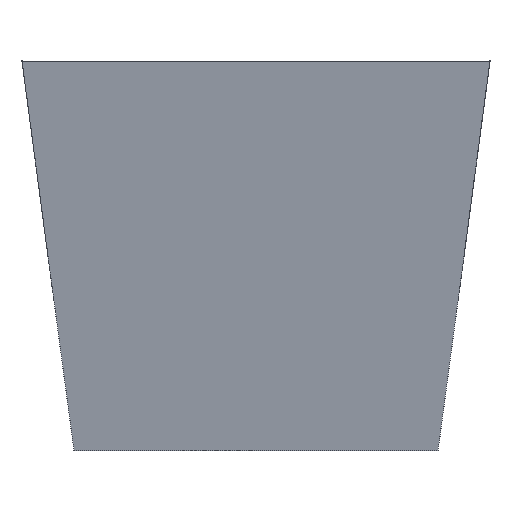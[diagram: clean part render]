
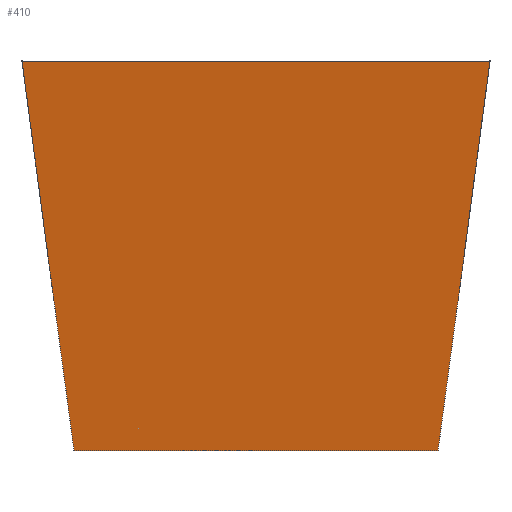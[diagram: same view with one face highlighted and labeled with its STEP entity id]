
A CAD part, left-side view. The second image highlights one B-rep face of the part: STEP entity #410.
In plain terms, the highlighted free-form (B-spline) face has degree [1, 1] with [2, 2] control points.
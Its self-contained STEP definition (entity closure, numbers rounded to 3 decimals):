
#22 = VERTEX_POINT('',#23);
#23 = CARTESIAN_POINT('',(-31.,-21.,0.));
#32 = B_SPLINE_SURFACE_WITH_KNOTS('',1,1,(
    (#33,#34)
    ,(#35,#36)),.UNSPECIFIED.,.F.,.F.,.F.,(2,2),(2,2),(0.,76.),(0.,1.),
  .PIECEWISE_BEZIER_KNOTS.);
#33 = CARTESIAN_POINT('',(-31.,-21.,0.));
#34 = CARTESIAN_POINT('',(-38.,-27.,45.));
#35 = CARTESIAN_POINT('',(31.,-21.,0.));
#36 = CARTESIAN_POINT('',(38.,-27.,45.));
#43 = PLANE('',#44);
#44 = AXIS2_PLACEMENT_3D('',#45,#46,#47);
#45 = CARTESIAN_POINT('',(-31.,-21.,0.));
#46 = DIRECTION('',(0.,0.,-1.));
#47 = DIRECTION('',(0.828,0.561,0.));
#83 = VERTEX_POINT('',#84);
#84 = CARTESIAN_POINT('',(-38.,-27.,45.));
#98 = PLANE('',#99);
#99 = AXIS2_PLACEMENT_3D('',#100,#101,#102);
#100 = CARTESIAN_POINT('',(-38.,-27.,45.));
#101 = DIRECTION('',(0.,0.,-1.));
#102 = DIRECTION('',(0.815,0.579,0.));
#110 = EDGE_CURVE('',#22,#83,#111,.T.);
#111 = SURFACE_CURVE('',#112,(#115,#122),.PCURVE_S1.);
#112 = B_SPLINE_CURVE_WITH_KNOTS('',1,(#113,#114),.UNSPECIFIED.,.F.,.F.,
  (2,2),(0.,1.),.PIECEWISE_BEZIER_KNOTS.);
#113 = CARTESIAN_POINT('',(-31.,-21.,0.));
#114 = CARTESIAN_POINT('',(-38.,-27.,45.));
#115 = PCURVE('',#32,#116);
#116 = DEFINITIONAL_REPRESENTATION('',(#117),#121);
#117 = LINE('',#118,#119);
#118 = CARTESIAN_POINT('',(0.,0.));
#119 = VECTOR('',#120,1.);
#120 = DIRECTION('',(0.,1.));
#121 = ( GEOMETRIC_REPRESENTATION_CONTEXT(2) 
PARAMETRIC_REPRESENTATION_CONTEXT() REPRESENTATION_CONTEXT('2D SPACE',''
  ) );
#122 = PCURVE('',#123,#128);
#123 = B_SPLINE_SURFACE_WITH_KNOTS('',1,1,(
    (#124,#125)
    ,(#126,#127
  )),.UNSPECIFIED.,.F.,.F.,.F.,(2,2),(2,2),(0.,54.),(0.,1.),
  .PIECEWISE_BEZIER_KNOTS.);
#124 = CARTESIAN_POINT('',(-31.,21.,0.));
#125 = CARTESIAN_POINT('',(-38.,27.,45.));
#126 = CARTESIAN_POINT('',(-31.,-21.,0.));
#127 = CARTESIAN_POINT('',(-38.,-27.,45.));
#128 = DEFINITIONAL_REPRESENTATION('',(#129),#133);
#129 = LINE('',#130,#131);
#130 = CARTESIAN_POINT('',(54.,0.));
#131 = VECTOR('',#132,1.);
#132 = DIRECTION('',(0.,1.));
#133 = ( GEOMETRIC_REPRESENTATION_CONTEXT(2) 
PARAMETRIC_REPRESENTATION_CONTEXT() REPRESENTATION_CONTEXT('2D SPACE',''
  ) );
#162 = VERTEX_POINT('',#163);
#163 = CARTESIAN_POINT('',(-31.,21.,0.));
#177 = B_SPLINE_SURFACE_WITH_KNOTS('',1,1,(
    (#178,#179)
    ,(#180,#181
  )),.UNSPECIFIED.,.F.,.F.,.F.,(2,2),(2,2),(0.,76.),(0.,1.),
  .PIECEWISE_BEZIER_KNOTS.);
#178 = CARTESIAN_POINT('',(31.,21.,0.));
#179 = CARTESIAN_POINT('',(38.,27.,45.));
#180 = CARTESIAN_POINT('',(-31.,21.,0.));
#181 = CARTESIAN_POINT('',(-38.,27.,45.));
#188 = EDGE_CURVE('',#162,#22,#189,.T.);
#189 = SURFACE_CURVE('',#190,(#194,#201),.PCURVE_S1.);
#190 = LINE('',#191,#192);
#191 = CARTESIAN_POINT('',(-31.,21.,0.));
#192 = VECTOR('',#193,1.);
#193 = DIRECTION('',(0.,-1.,0.));
#194 = PCURVE('',#43,#195);
#195 = DEFINITIONAL_REPRESENTATION('',(#196),#200);
#196 = LINE('',#197,#198);
#197 = CARTESIAN_POINT('',(23.556,-34.773));
#198 = VECTOR('',#199,1.);
#199 = DIRECTION('',(-0.561,0.828));
#200 = ( GEOMETRIC_REPRESENTATION_CONTEXT(2) 
PARAMETRIC_REPRESENTATION_CONTEXT() REPRESENTATION_CONTEXT('2D SPACE',''
  ) );
#201 = PCURVE('',#123,#202);
#202 = DEFINITIONAL_REPRESENTATION('',(#203),#206);
#203 = B_SPLINE_CURVE_WITH_KNOTS('',1,(#204,#205),.UNSPECIFIED.,.F.,.F.,
  (2,2),(0.,42.),.PIECEWISE_BEZIER_KNOTS.);
#204 = CARTESIAN_POINT('',(0.,0.));
#205 = CARTESIAN_POINT('',(54.,0.));
#206 = ( GEOMETRIC_REPRESENTATION_CONTEXT(2) 
PARAMETRIC_REPRESENTATION_CONTEXT() REPRESENTATION_CONTEXT('2D SPACE',''
  ) );
#260 = EDGE_CURVE('',#261,#83,#263,.T.);
#261 = VERTEX_POINT('',#262);
#262 = CARTESIAN_POINT('',(-38.,27.,45.));
#263 = SURFACE_CURVE('',#264,(#268,#275),.PCURVE_S1.);
#264 = LINE('',#265,#266);
#265 = CARTESIAN_POINT('',(-38.,27.,45.));
#266 = VECTOR('',#267,1.);
#267 = DIRECTION('',(0.,-1.,0.));
#268 = PCURVE('',#98,#269);
#269 = DEFINITIONAL_REPRESENTATION('',(#270),#274);
#270 = LINE('',#271,#272);
#271 = CARTESIAN_POINT('',(31.277,-44.02));
#272 = VECTOR('',#273,1.);
#273 = DIRECTION('',(-0.579,0.815));
#274 = ( GEOMETRIC_REPRESENTATION_CONTEXT(2) 
PARAMETRIC_REPRESENTATION_CONTEXT() REPRESENTATION_CONTEXT('2D SPACE',''
  ) );
#275 = PCURVE('',#123,#276);
#276 = DEFINITIONAL_REPRESENTATION('',(#277),#281);
#277 = LINE('',#278,#279);
#278 = CARTESIAN_POINT('',(0.,1.));
#279 = VECTOR('',#280,1.);
#280 = DIRECTION('',(1.,0.));
#281 = ( GEOMETRIC_REPRESENTATION_CONTEXT(2) 
PARAMETRIC_REPRESENTATION_CONTEXT() REPRESENTATION_CONTEXT('2D SPACE',''
  ) );
#410 = ADVANCED_FACE('',(#411),#123,.T.);
#411 = FACE_BOUND('',#412,.T.);
#412 = EDGE_LOOP('',(#413,#414,#415,#416));
#413 = ORIENTED_EDGE('',*,*,#188,.T.);
#414 = ORIENTED_EDGE('',*,*,#110,.T.);
#415 = ORIENTED_EDGE('',*,*,#260,.F.);
#416 = ORIENTED_EDGE('',*,*,#417,.F.);
#417 = EDGE_CURVE('',#162,#261,#418,.T.);
#418 = SURFACE_CURVE('',#419,(#422,#429),.PCURVE_S1.);
#419 = B_SPLINE_CURVE_WITH_KNOTS('',1,(#420,#421),.UNSPECIFIED.,.F.,.F.,
  (2,2),(0.,1.),.PIECEWISE_BEZIER_KNOTS.);
#420 = CARTESIAN_POINT('',(-31.,21.,0.));
#421 = CARTESIAN_POINT('',(-38.,27.,45.));
#422 = PCURVE('',#123,#423);
#423 = DEFINITIONAL_REPRESENTATION('',(#424),#428);
#424 = LINE('',#425,#426);
#425 = CARTESIAN_POINT('',(0.,0.));
#426 = VECTOR('',#427,1.);
#427 = DIRECTION('',(0.,1.));
#428 = ( GEOMETRIC_REPRESENTATION_CONTEXT(2) 
PARAMETRIC_REPRESENTATION_CONTEXT() REPRESENTATION_CONTEXT('2D SPACE',''
  ) );
#429 = PCURVE('',#177,#430);
#430 = DEFINITIONAL_REPRESENTATION('',(#431),#435);
#431 = LINE('',#432,#433);
#432 = CARTESIAN_POINT('',(76.,0.));
#433 = VECTOR('',#434,1.);
#434 = DIRECTION('',(0.,1.));
#435 = ( GEOMETRIC_REPRESENTATION_CONTEXT(2) 
PARAMETRIC_REPRESENTATION_CONTEXT() REPRESENTATION_CONTEXT('2D SPACE',''
  ) );
